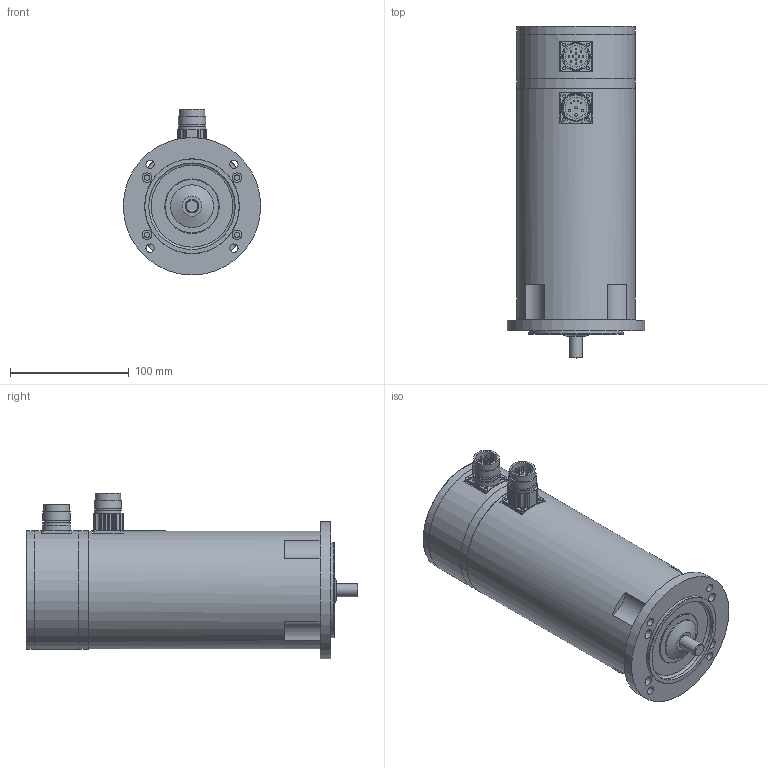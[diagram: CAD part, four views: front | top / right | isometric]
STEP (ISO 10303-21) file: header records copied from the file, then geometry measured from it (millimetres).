
FILE_DESCRIPTION(/* description */ (''),/* implementation_level */ '2;1');
FILE_NAME(/* name */ 'ksa_3x12e_ixx',/* time_stamp */ '2007-03-13T10:49:30+01:00',/* author */ (''),/* organization */ (''),/* preprocessor_version */ 'ST-DEVELOPER v8',/* originating_system */ 'UNIGRAPHICS SOLUTIONS - UNIGRAPHICS 18.0',/* authorisation */ '');
FILE_SCHEMA (('AUTOMOTIVE_DESIGN { 1 2 10303 214 0 1 1 1 }'));
Length unit declared in the file: millimetre
Products named in the file (11): 014261_0; 064304_0; 089284_0; 113058_0; 014260_0; 06331101_0; DIN3760_org_A15x30x7_0; Rotor_SA 34.. E_0; Gehaeuse SA 34.. E_0; 113044_0; KSA328_E-I27_0
Assembly tree (10 placements, depth 2):
  KSA328_E-I27_0
    113044_0
    Gehaeuse SA 34.. E_0
    Rotor_SA 34.. E_0
    DIN3760_org_A15x30x7_0
    06331101_0
    014260_0
    113058_0
    089284_0
    064304_0
    014261_0
Bounding box: 116 x 280 x 140 mm (x, y, z)
Volume: 865882.3 mm3; surface area: 229867.2 mm2
Topology: 10 solids, 10 shells, 267 faces, 664 edges, 426 vertices
Faces by surface type: cylinder 146, plane 76, sphere 20, torus 15, cone 10
Full cylindrical faces by diameter (mm): 1 x16, 2 x4, 2.7 x8, 4.5 x4, 7 x4, 8 x4, 10.52 x1, 10.9 x1, 11 x1, 15 x2, 15.5 x1, 18 x2, 20 x4, 21 x2, 21.5 x2, 23 x4, 24 x1, 25 x1, 27 x1, 30 x3, 35 x1, 36 x1, 45 x1, 73 x1, 74 x1, 80 x2, 81 x2, 100 x4, 116 x1
Entity records: 7164 total; most frequent: DIRECTION 1340, CARTESIAN_POINT 1152, ORIENTED_EDGE 898, AXIS2_PLACEMENT_3D 615, EDGE_LOOP 470, EDGE_CURVE 449, VERTEX_POINT 359, CIRCLE 337
